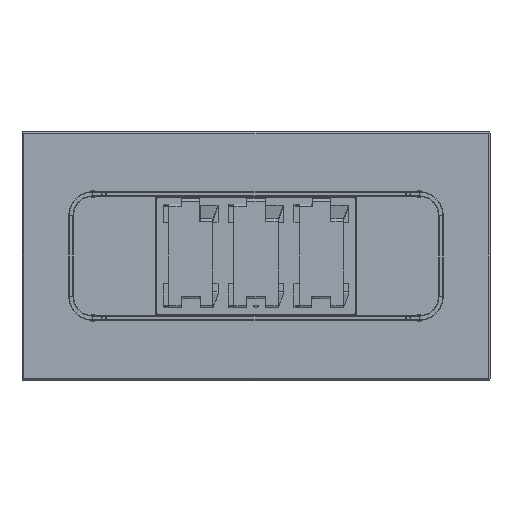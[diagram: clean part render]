
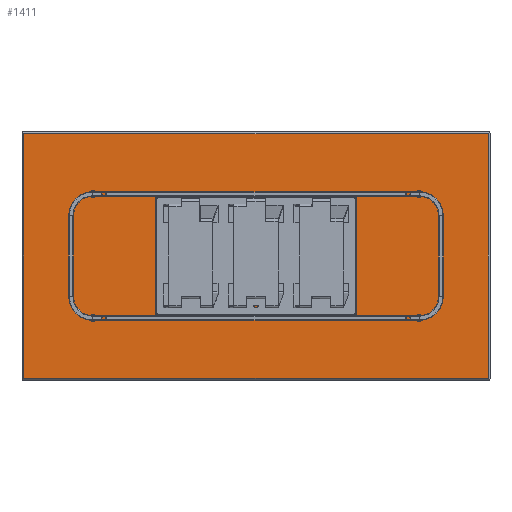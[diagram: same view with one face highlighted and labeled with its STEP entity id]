
A CAD part, front view. The second image highlights one B-rep face of the part: STEP entity #1411.
In plain terms, the highlighted planar face has unit normal (0, -1, 0).
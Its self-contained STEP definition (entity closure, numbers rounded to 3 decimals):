
#783 = FACE_OUTER_BOUND ( 'NONE', #2816, .T. ) ;
#1411 = ADVANCED_FACE ( 'NONE', ( #783 ), #17322, .F. ) ;
#1734 = VECTOR ( 'NONE', #14528, 1000. ) ;
#1942 = VECTOR ( 'NONE', #5878, 1000. ) ;
#1998 = VERTEX_POINT ( 'NONE', #3161 ) ;
#2564 = CARTESIAN_POINT ( 'NONE',  ( -992., 0., 522. ) ) ;
#2788 = ORIENTED_EDGE ( 'NONE', *, *, #8843, .T. ) ;
#2816 = EDGE_LOOP ( 'NONE', ( #2788, #13578, #17617, #11768 ) ) ;
#3161 = CARTESIAN_POINT ( 'NONE',  ( 992., 0., 522. ) ) ;
#3339 = VECTOR ( 'NONE', #13182, 1000. ) ;
#3342 = EDGE_CURVE ( 'NONE', #13602, #4706, #8314, .T. ) ;
#3665 = DIRECTION ( 'NONE',  ( 0., 0., 1. ) ) ;
#4706 = VERTEX_POINT ( 'NONE', #6991 ) ;
#5699 = CARTESIAN_POINT ( 'NONE',  ( 0., 0., -522. ) ) ;
#5878 = DIRECTION ( 'NONE',  ( 1., 0., 0. ) ) ;
#6190 = DIRECTION ( 'NONE',  ( -1., 0., 0. ) ) ;
#6991 = CARTESIAN_POINT ( 'NONE',  ( 992., 0., -522. ) ) ;
#7812 = CARTESIAN_POINT ( 'NONE',  ( 0., 0., 522. ) ) ;
#8314 = LINE ( 'NONE', #5699, #1942 ) ;
#8843 = EDGE_CURVE ( 'NONE', #4706, #1998, #17263, .T. ) ;
#9004 = LINE ( 'NONE', #10357, #1734 ) ;
#10357 = CARTESIAN_POINT ( 'NONE',  ( -992., 0., 0. ) ) ;
#10514 = CARTESIAN_POINT ( 'NONE',  ( 0., 0., 0. ) ) ;
#11768 = ORIENTED_EDGE ( 'NONE', *, *, #3342, .T. ) ;
#11974 = EDGE_CURVE ( 'NONE', #1998, #14788, #17487, .T. ) ;
#13182 = DIRECTION ( 'NONE',  ( 0., 0., 1. ) ) ;
#13578 = ORIENTED_EDGE ( 'NONE', *, *, #11974, .T. ) ;
#13602 = VERTEX_POINT ( 'NONE', #14026 ) ;
#14026 = CARTESIAN_POINT ( 'NONE',  ( -992., 0., -522. ) ) ;
#14528 = DIRECTION ( 'NONE',  ( 0., 0., -1. ) ) ;
#14538 = EDGE_CURVE ( 'NONE', #14788, #13602, #9004, .T. ) ;
#14551 = CARTESIAN_POINT ( 'NONE',  ( 992., 0., 0. ) ) ;
#14788 = VERTEX_POINT ( 'NONE', #2564 ) ;
#15037 = AXIS2_PLACEMENT_3D ( 'NONE', #10514, #16048, #3665 ) ;
#15221 = VECTOR ( 'NONE', #6190, 1000. ) ;
#16048 = DIRECTION ( 'NONE',  ( 0., 1., 0. ) ) ;
#17263 = LINE ( 'NONE', #14551, #3339 ) ;
#17322 = PLANE ( 'NONE',  #15037 ) ;
#17487 = LINE ( 'NONE', #7812, #15221 ) ;
#17617 = ORIENTED_EDGE ( 'NONE', *, *, #14538, .T. ) ;
